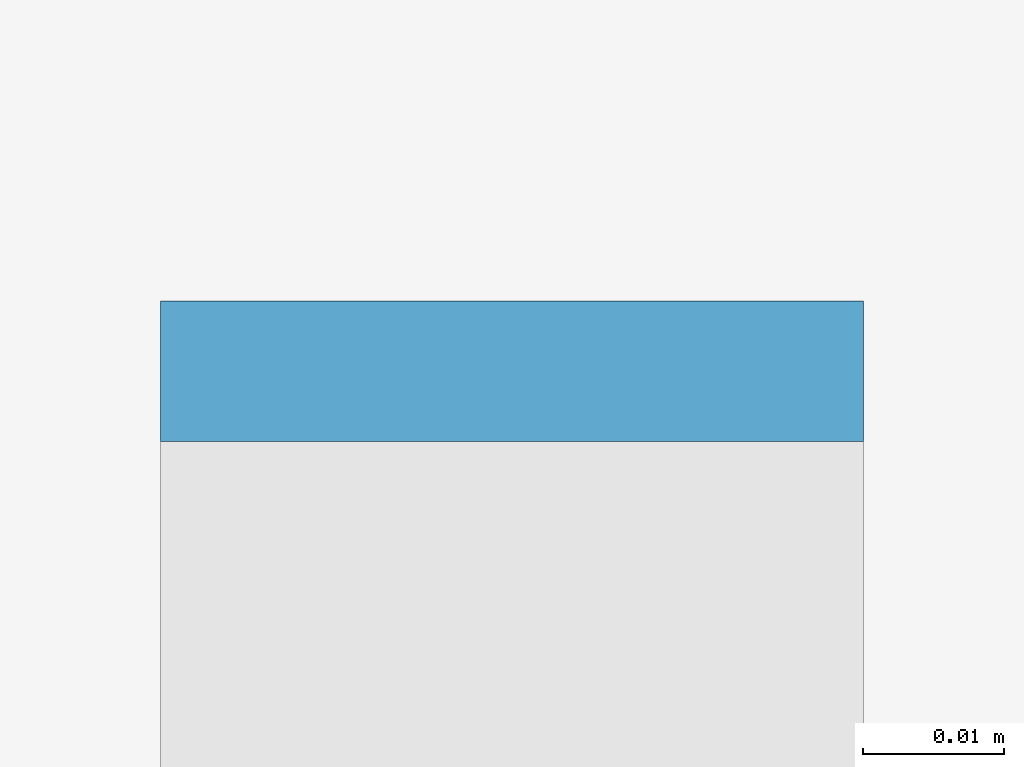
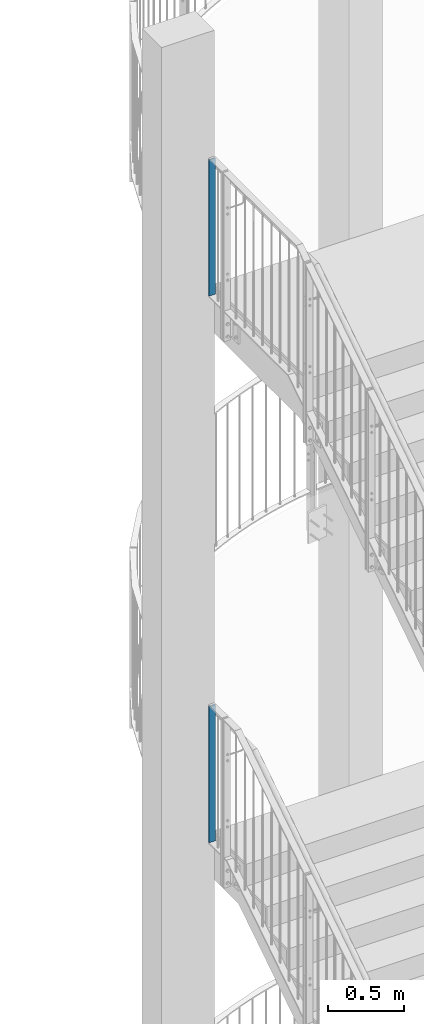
# One storey, part 54 of 296: 2 columns.
"""IFC2X3 building model written with IfcOpenShell, lengths in millimetres."""

from ifc_helpers import new_model, entity, si_unit, converted_unit, frame, origin, origin_with_axes, origin_2d, place, context, project, spatial, rectangle, extrude, material, element, save


model = new_model("IFC2X3")

# Units and contexts
model_context = context("Model", 3, precision=1e-09, world=origin_with_axes())
ifc_project = project(units=[si_unit("LENGTHUNIT", "METRE", prefix="MILLI"), si_unit("AREAUNIT", "SQUARE_METRE"), si_unit("VOLUMEUNIT", "CUBIC_METRE"), converted_unit("PLANEANGLEUNIT", "DEGREE", entity("IfcPlaneAngleMeasure", 0.01745329), si_unit("PLANEANGLEUNIT", "RADIAN"), dimensions=[0, 0, 0, 0, 0, 0, 0])], contexts=[model_context])

# Site, building, storey
site_placement = place(None, origin_with_axes())
site = spatial("IfcSite", under=ifc_project, at=site_placement, Name="TZD-S?d | Treppenhausgel?nder", CompositionType="ELEMENT")
building_placement = place(site_placement, origin_with_axes())
building = spatial("IfcBuilding", under=site, at=building_placement, Name="Struktur 1", CompositionType="ELEMENT")
storey_placement = place(building_placement, origin_with_axes())
storey = spatial("IfcBuildingStorey", under=building, at=storey_placement, Name="Default Storey", CompositionType="ELEMENT", Elevation=0.0)

# Columns
ifc_material = material(Name="S235JR")
for number, where, z_axis, x_axis in (
    (1, (-45.0, -300.0, 7349.999), (0.0, 0.0, 1.0), (0.0, 1.0, 0.0)),
    (2, (-45.0, -300.0, 11725.0), (0.0, 0.0, 1.0), (0.0, 1.0, 0.0)),
):
    element("IfcColumn", number, at=place(None, frame(where, z_axis=z_axis, x_axis=x_axis)), inside=storey, material=ifc_material, Name="-", ObjectType="-", context=model_context, shape_type="SweptSolid", body=[
        extrude(rectangle(XDim=10.0, YDim=50.0, at=origin_2d()), origin(), (0.0, 0.0, 1.0), 1090.0),
    ])

save(model, "model.ifc")
